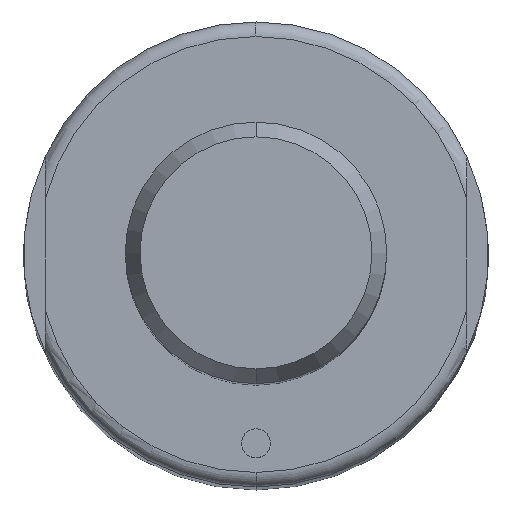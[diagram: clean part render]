
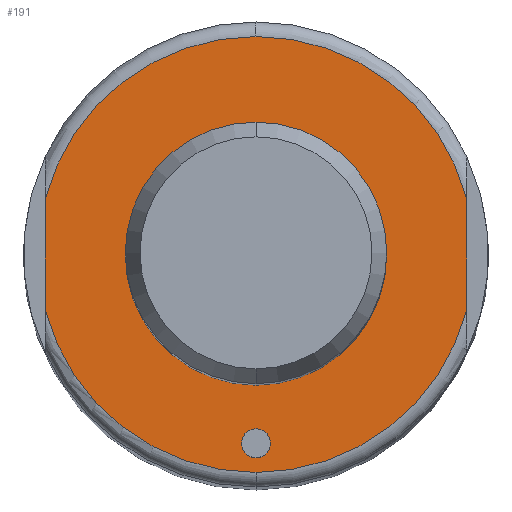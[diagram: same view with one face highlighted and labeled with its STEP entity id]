
A CAD part, top view. The second image highlights one B-rep face of the part: STEP entity #191.
In plain terms, the highlighted planar face has unit normal (0, 0, 1).
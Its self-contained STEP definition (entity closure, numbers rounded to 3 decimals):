
#115=FACE_BOUND('',#292,.T.);
#116=FACE_BOUND('',#293,.T.);
#117=FACE_BOUND('',#294,.T.);
#126=PLANE('',#862);
#191=ADVANCED_FACE('',(#115,#116,#117),#126,.T.);
#292=EDGE_LOOP('',(#515,#516,#517,#518,#519,#520));
#293=EDGE_LOOP('',(#521,#522));
#294=EDGE_LOOP('',(#523,#524));
#303=CIRCLE('',#774,9.);
#304=CIRCLE('',#776,9.);
#310=CIRCLE('',#786,1.);
#311=CIRCLE('',#788,1.);
#343=CIRCLE('',#846,15.);
#344=CIRCLE('',#848,15.);
#348=CIRCLE('',#854,15.);
#352=CIRCLE('',#860,15.);
#515=ORIENTED_EDGE('',*,*,#691,.F.);
#516=ORIENTED_EDGE('',*,*,#690,.F.);
#517=ORIENTED_EDGE('',*,*,#674,.F.);
#518=ORIENTED_EDGE('',*,*,#692,.F.);
#519=ORIENTED_EDGE('',*,*,#672,.F.);
#520=ORIENTED_EDGE('',*,*,#683,.F.);
#521=ORIENTED_EDGE('',*,*,#621,.F.);
#522=ORIENTED_EDGE('',*,*,#620,.F.);
#523=ORIENTED_EDGE('',*,*,#610,.T.);
#524=ORIENTED_EDGE('',*,*,#608,.T.);
#545=VERTEX_POINT('',#1117);
#546=VERTEX_POINT('',#1119);
#551=VERTEX_POINT('',#1138);
#554=VERTEX_POINT('',#1143);
#586=VERTEX_POINT('',#1259);
#588=VERTEX_POINT('',#1263);
#589=VERTEX_POINT('',#1274);
#591=VERTEX_POINT('',#1277);
#595=VERTEX_POINT('',#1298);
#600=VERTEX_POINT('',#1319);
#608=EDGE_CURVE('',#546,#545,#303,.T.);
#610=EDGE_CURVE('',#545,#546,#304,.T.);
#620=EDGE_CURVE('',#554,#551,#310,.T.);
#621=EDGE_CURVE('',#551,#554,#311,.T.);
#672=EDGE_CURVE('',#588,#586,#343,.T.);
#674=EDGE_CURVE('',#589,#591,#344,.T.);
#683=EDGE_CURVE('',#595,#588,#348,.T.);
#690=EDGE_CURVE('',#591,#600,#352,.T.);
#691=EDGE_CURVE('',#600,#595,#727,.T.);
#692=EDGE_CURVE('',#586,#589,#728,.T.);
#727=LINE('',#1322,#763);
#728=LINE('',#1323,#764);
#763=VECTOR('',#1089,1.);
#764=VECTOR('',#1090,1.);
#774=AXIS2_PLACEMENT_3D('',#1118,#884,#885);
#776=AXIS2_PLACEMENT_3D('',#1122,#889,#890);
#786=AXIS2_PLACEMENT_3D('',#1144,#913,#914);
#788=AXIS2_PLACEMENT_3D('',#1146,#917,#918);
#846=AXIS2_PLACEMENT_3D('',#1264,#1051,#1052);
#848=AXIS2_PLACEMENT_3D('',#1276,#1055,#1056);
#854=AXIS2_PLACEMENT_3D('',#1300,#1071,#1072);
#860=AXIS2_PLACEMENT_3D('',#1320,#1085,#1086);
#862=AXIS2_PLACEMENT_3D('',#1324,#1091,#1092);
#884=DIRECTION('',(0.,0.,-1.));
#885=DIRECTION('',(-1.,0.,0.));
#889=DIRECTION('',(0.,0.,-1.));
#890=DIRECTION('',(1.,0.,0.));
#913=DIRECTION('',(0.,0.,1.));
#914=DIRECTION('',(-1.,0.,0.));
#917=DIRECTION('',(0.,0.,1.));
#918=DIRECTION('',(1.,0.,0.));
#1051=DIRECTION('',(0.,0.,-1.));
#1052=DIRECTION('',(-1.,0.,0.));
#1055=DIRECTION('',(0.,0.,-1.));
#1056=DIRECTION('',(-1.,0.,0.));
#1071=DIRECTION('',(0.,0.,-1.));
#1072=DIRECTION('',(1.,0.,0.));
#1085=DIRECTION('',(0.,0.,-1.));
#1086=DIRECTION('',(1.,0.,0.));
#1089=DIRECTION('',(0.,1.,0.));
#1090=DIRECTION('',(0.,-1.,0.));
#1091=DIRECTION('',(0.,0.,1.));
#1092=DIRECTION('',(1.,0.,0.));
#1117=CARTESIAN_POINT('',(0.,-9.,120.));
#1118=CARTESIAN_POINT('',(0.,0.,120.));
#1119=CARTESIAN_POINT('',(0.,9.,120.));
#1122=CARTESIAN_POINT('',(0.,0.,120.));
#1138=CARTESIAN_POINT('',(0.,-12.,120.));
#1143=CARTESIAN_POINT('',(0.,-14.,120.));
#1144=CARTESIAN_POINT('',(0.,-13.,120.));
#1146=CARTESIAN_POINT('',(0.,-13.,120.));
#1259=CARTESIAN_POINT('',(14.5,3.841,120.));
#1263=CARTESIAN_POINT('',(0.,15.,120.));
#1264=CARTESIAN_POINT('',(0.,0.,120.));
#1274=CARTESIAN_POINT('',(14.5,-3.841,120.));
#1276=CARTESIAN_POINT('',(0.,0.,120.));
#1277=CARTESIAN_POINT('',(0.,-15.,120.));
#1298=CARTESIAN_POINT('',(-14.5,3.841,120.));
#1300=CARTESIAN_POINT('',(0.,0.,120.));
#1319=CARTESIAN_POINT('',(-14.5,-3.841,120.));
#1320=CARTESIAN_POINT('',(0.,0.,120.));
#1322=CARTESIAN_POINT('',(-14.5,0.,120.));
#1323=CARTESIAN_POINT('',(14.5,0.,120.));
#1324=CARTESIAN_POINT('',(0.,0.,120.));
